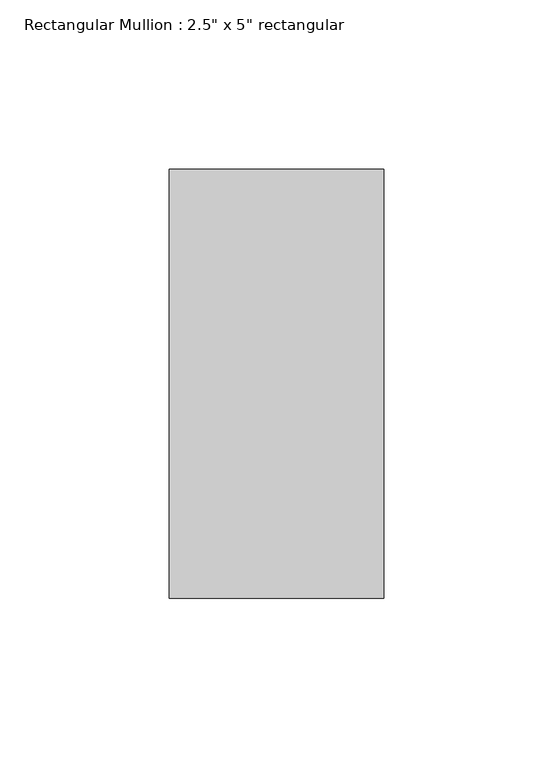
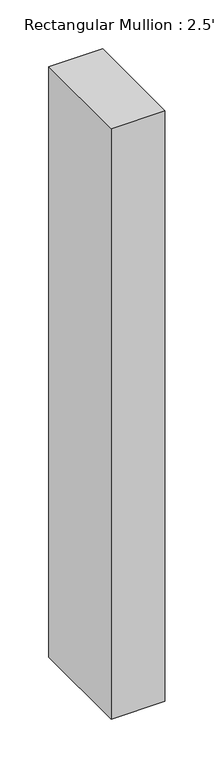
"""IFC4 building model written with IfcOpenShell, lengths in millimetres: member geometry."""

from ifc_helpers import new_model, si_unit, frame, origin, place, context, project, spatial, polyline, outline, extrude, source, transform, mapped, element, save


def member_8ca7f02a(model_context):
    return source(origin(), model_context, "Body", "SweptSolid", [
        extrude(outline(polyline([(31.75, 63.5), (31.75, -63.5), (-31.75, -63.5), (-31.75, 63.5), (31.75, 63.5)])), frame((0.0, 0.0, -736.6), z_axis=(0.0, 0.0, 1.0), x_axis=(1.0, 0.0, 0.0)), (0.0, 0.0, 1.0), 736.6),
    ])


if __name__ == "__main__":
    model = new_model("IFC4")
    model_context = context("Model", 3, world=origin())
    ifc_project = project(units=[si_unit("LENGTHUNIT", "METRE", prefix="MILLI")], contexts=[model_context])
    site = spatial("IfcSite", under=ifc_project)
    building = spatial("IfcBuilding", under=site)
    placement = place(None, origin())
    member_shape = member_8ca7f02a(model_context)
    element("IfcMember", 1, ObjectType="Rectangular Mullion : 2.5\" x 5\" rectangular", at=placement, inside=building, context=model_context, shape_type="MappedRepresentation", body=[
        mapped(member_shape, transform((0.0, 0.0, 0.0), x_axis=(1.0, 0.0, 0.0), y_axis=(0.0, 1.0, 0.0), z_axis=(0.0, 0.0, 1.0))),
    ])
    save(model, "model.ifc")
